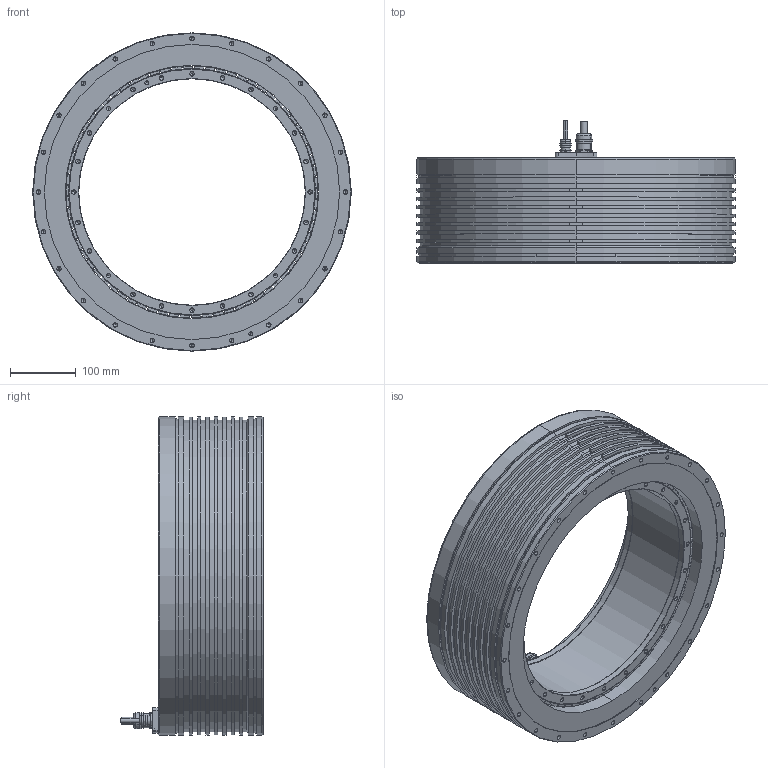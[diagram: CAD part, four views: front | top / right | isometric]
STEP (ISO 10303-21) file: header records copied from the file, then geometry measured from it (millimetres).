
FILE_DESCRIPTION (( 'STEP AP214' ), '1' );
FILE_NAME ('TORQUE KIT QMT HA 485-160-I-AX.STEP', '2025-10-03T11:20:49', ( '' ), ( '' ), 'SwSTEP 2.0', 'SolidWorks 2023', '' );
FILE_SCHEMA (( 'AUTOMOTIVE_DESIGN' ));
Length unit declared in the file: millimetre
Products named in the file (23): Magnet; Rotor; Stator; Cable Gland; Rotor Ring; Cable; Cooling Ring; Resin; TORQUE KIT QMT HA 485-160-I-AX; Cable Clamp; Cable Connection; Screw; Housing-BO; Housing; Rotor Glued
Assembly tree (160 placements, depth 6):
  TORQUE KIT QMT HA 485-160-I-AX
    Stator
      Stator
        Housing
          Housing-BO
            Cooling Ring
        Cable Connection
          Cable Connection
          Cable
          Cable
        Resin
      Cable Clamp
        Cable Clamp
        Cable Gland
        Cable Gland
      Screw  x3
    Rotor
      Rotor Glued
        Rotor Ring
        Magnet  x35
        Magnet  x35
        Magnet  x35
        Magnet  x35
Bounding box: 485 x 217.1 x 485 mm (x, y, z)
Volume: 12696841.8 mm3; surface area: 1864816.5 mm2
Topology: 152 solids, 152 shells, 5385 faces, 12199 edges, 6510 vertices
Faces by surface type: cylinder 2295, sphere 1400, plane 790, torus 590, cone 310
Entity records: 41516 total; most frequent: DIRECTION 6171, CARTESIAN_POINT 5877, ORIENTED_EDGE 4918, AXIS2_PLACEMENT_3D 2554, EDGE_CURVE 2459, VERTEX_POINT 1532, EDGE_LOOP 1311, CIRCLE 1268
